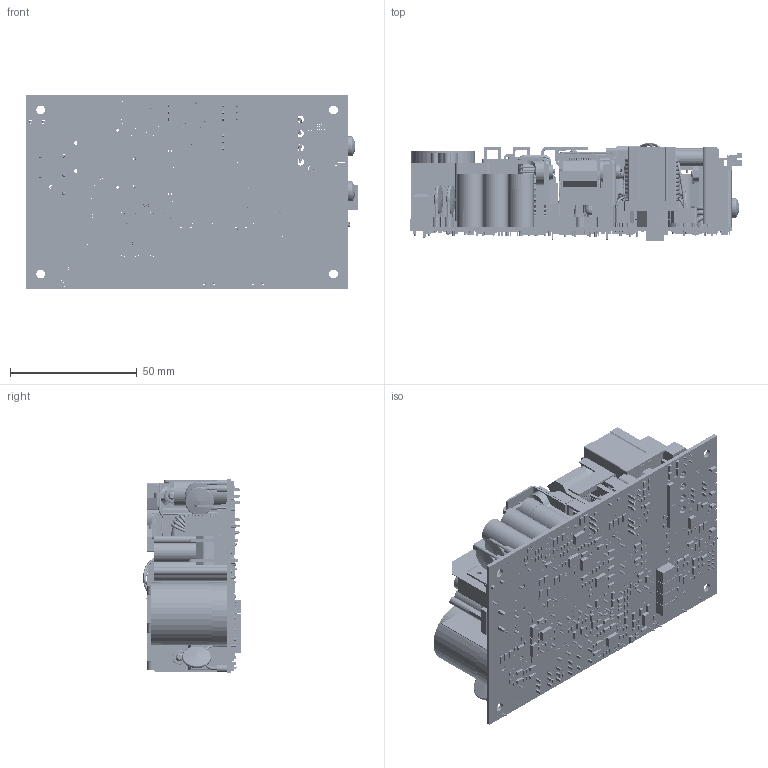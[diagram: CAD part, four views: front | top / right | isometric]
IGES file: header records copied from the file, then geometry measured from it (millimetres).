
Start section: SolidWorks IGES file using analytic representation for surfaces
Global section: file name: C:\PDM WIP\CHD250-A.IGS; native system: SolidWorks 2017; preprocessor: SolidWorks 2017; author: rblackmore; date: 181018.161107; units: millimetre
Bounding box: 131.03 x 38.43 x 76.2 mm (x, y, z)
Surface area: 156087.8 mm2 (no closed solid volume)
Topology: 0 solids, 0 shells, 9339 faces, 82680 edges, 82634 vertices
Faces by surface type: bspline 6265, revolution 3074
